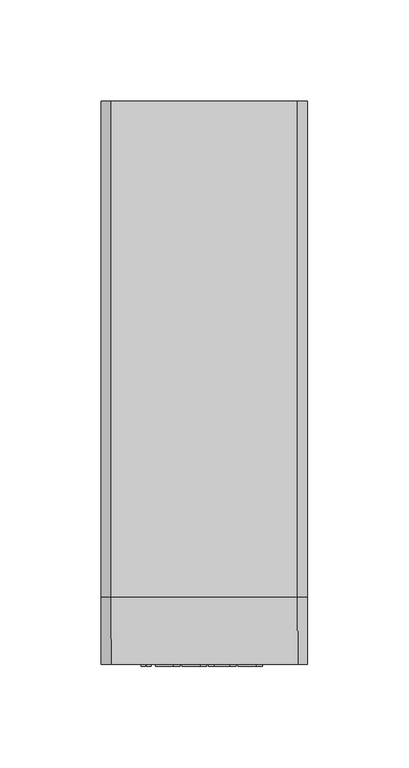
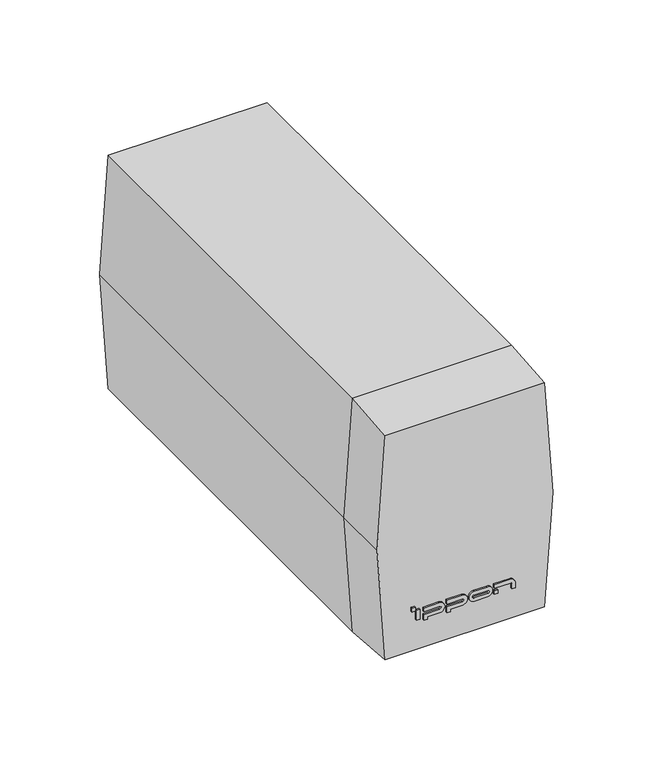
"""IFC4 building model written with IfcOpenShell, lengths in millimetres: proxy geometry, IPPON_ИБП_Innova Back Basic_650_850_1050ВА : Back Basic S Euro 1050 ВА."""

from ifc_helpers import new_model, si_unit, point, frame, frame_2d, origin, place, context, project, spatial, polyline, circle_curve, trimmed, segment, composite_curve, outline, extrude, faceted_brep, source, transform, mapped, element, save


def electrical_equipment_57e4d7b0(model_context):
    return source(origin(), model_context, "Body", "SolidModel", [
        extrude(outline(polyline([(-29.1718133, -1.0), (-31.1718133, -1.0), (-31.1718133, 0.0), (-29.1718133, 0.0), (-29.1718133, -1.0)])), frame((0.0, 0.0, 27.4695835), z_axis=(0.0, 0.0, 1.0), x_axis=(1.0, 0.0, 0.0)), (0.0, 0.0, 1.0), 2.3),
        extrude(outline(polyline([(18.6035474, -1.0), (16.6035474, -1.0), (16.6035474, 0.0), (18.6035474, 0.0), (18.6035474, -1.0)])), frame((0.0, 0.0, 21.4695835), z_axis=(0.0, 0.0, 1.0), x_axis=(1.0, 0.0, 0.0)), (0.0, 0.0, 1.0), 2.2268231),
        extrude(outline(polyline([(-26.438565, -1.0), (-28.4833324, -1.0), (-28.4833324, 0.0), (-26.438565, 0.0), (-26.438565, -1.0)])), frame((0.0, 0.0, 21.4695835), z_axis=(0.0, 0.0, 1.0), x_axis=(1.0, 0.0, 0.0)), (0.0, 0.0, 1.0), 6.0),
        extrude(outline(composite_curve([segment(polyline([(25.2071435, -24.2241109), (25.2071435, -14.9923536)]), True, "CONTINUOUS"), segment(trimmed(circle_curve(frame_2d((24.3506642, -14.9923536)), 0.8564793), [point((25.2071435, -14.9923536))], [point((23.4941849, -14.9923536))], True, "CARTESIAN"), True, "CONTINUOUS"), segment(polyline([(23.4941849, -14.9923536), (23.4941849, -24.2241109), (20.0036803, -24.2241109), (20.0036803, -22.2241109), (21.4695835, -22.2241109), (21.4695835, -15.1486036)]), True, "CONTINUOUS"), segment(trimmed(circle_curve(frame_2d((24.4695835, -15.1486036)), 3.0), [point((21.4695835, -15.1486036))], [point((27.4695835, -15.1486036))], False, "CARTESIAN"), True, "CONTINUOUS"), segment(polyline([(27.4695835, -15.1486036), (27.4695835, -24.2241109), (25.2071435, -24.2241109)]), True, "CONTINUOUS")], self_intersect=False)), frame((0.0, -1.0, 0.0), z_axis=(0.0, 1.0, 0.0), x_axis=(0.0, 0.0, 1.0)), (0.0, 0.0, 1.0), 1.0),
        extrude(outline(composite_curve([segment(polyline([(25.2071435, -11.0171091), (25.2071435, -1.7853518)]), True, "CONTINUOUS"), segment(trimmed(circle_curve(frame_2d((24.3506642, -1.7853518)), 0.8564793), [point((25.2071435, -1.7853518))], [point((23.4941849, -1.7853518))], True, "CARTESIAN"), True, "CONTINUOUS"), segment(polyline([(23.4941849, -1.7853518), (23.4941849, -11.0171091), (20.0036803, -11.0171091), (20.0036803, -9.0171091), (21.4695835, -9.0171091), (21.4695835, -1.9416018)]), True, "CONTINUOUS"), segment(trimmed(circle_curve(frame_2d((24.4695835, -1.9416018)), 3.0), [point((21.4695835, -1.9416018))], [point((27.4695835, -1.9416018))], False, "CARTESIAN"), True, "CONTINUOUS"), segment(polyline([(27.4695835, -1.9416018), (27.4695835, -11.0171091), (25.2071435, -11.0171091)]), True, "CONTINUOUS")], self_intersect=False)), frame((0.0, -1.0, 0.0), z_axis=(0.0, 1.0, 0.0), x_axis=(0.0, 0.0, 1.0)), (0.0, 0.0, 1.0), 1.0),
        extrude(outline(composite_curve([segment(trimmed(circle_curve(frame_2d((24.4695835, 12.558657)), 3.0), [point((21.4695835, 12.558657))], [point((27.4695835, 12.558657))], False, "CARTESIAN"), True, "CONTINUOUS"), segment(polyline([(27.4695835, 12.558657), (27.4695835, 4.958657)]), True, "CONTINUOUS"), segment(trimmed(circle_curve(frame_2d((24.4695835, 4.958657)), 3.0), [point((27.4695835, 4.958657))], [point((21.4695835, 4.958657))], False, "CARTESIAN"), True, "CONTINUOUS"), segment(polyline([(21.4695835, 4.958657), (21.4695835, 12.558657)]), True, "CONTINUOUS")], self_intersect=False), holes=[composite_curve([segment(polyline([(23.4941849, 12.714907), (23.4941849, 4.802407)]), True, "CONTINUOUS"), segment(trimmed(circle_curve(frame_2d((24.3506642, 4.802407)), 0.8564793), [point((23.4941849, 4.802407))], [point((25.2071435, 4.802407))], True, "CARTESIAN"), True, "CONTINUOUS"), segment(polyline([(25.2071435, 4.802407), (25.2071435, 12.714907)]), True, "CONTINUOUS"), segment(trimmed(circle_curve(frame_2d((24.3506642, 12.714907)), 0.8564793), [point((25.2071435, 12.714907))], [point((23.4941849, 12.714907))], True, "CARTESIAN"), True, "CONTINUOUS")], self_intersect=False)]), frame((0.0, -1.0, 0.0), z_axis=(0.0, 1.0, 0.0), x_axis=(0.0, 0.0, 1.0)), (0.0, 0.0, 1.0), 1.0),
        extrude(outline(composite_curve([segment(polyline([(25.2071435, 16.6035474), (25.2071435, 25.8353046)]), True, "CONTINUOUS"), segment(trimmed(circle_curve(frame_2d((24.3506642, 25.8353046)), 0.8564793), [point((25.2071435, 25.8353046))], [point((24.3506642, 26.6917839))], True, "CARTESIAN"), True, "CONTINUOUS"), segment(polyline([(24.3506642, 26.6917839), (21.4695835, 26.6917839), (21.4695835, 28.6317921), (25.0, 28.6317921)]), True, "CONTINUOUS"), segment(trimmed(circle_curve(frame_2d((24.4695835, 25.6790546)), 3.0), [point((25.0, 28.6317921))], [point((27.4695835, 25.6790546))], False, "CARTESIAN"), True, "CONTINUOUS"), segment(polyline([(27.4695835, 25.6790546), (27.4695835, 16.6035474), (25.2071435, 16.6035474)]), True, "CONTINUOUS")], self_intersect=False)), frame((0.0, -1.0, 0.0), z_axis=(0.0, 1.0, 0.0), x_axis=(0.0, 0.0, 1.0)), (0.0, 0.0, 1.0), 1.0),
        faceted_brep([(46.2097902, 0.0, 140.0), (-46.2097902, 0.0, 140.0), (-51.0, 0.0, 71.5), (-46.2097902, 0.0, 3.0), (46.2097902, 0.0, 3.0), (51.0, 0.0, 71.5), (-46.0, 33.0, 143.0), (46.0, 33.0, 143.0), (51.0, 33.0, 71.5), (46.0, 33.0, 0.0), (-46.0, 33.0, 0.0), (-51.0, 33.0, 71.5)], [[[0, 1, 2, 3, 4, 5]], [[6, 7, 8, 9, 10, 11]], [[7, 6, 1, 0]], [[10, 9, 4, 3]], [[5, 8, 7, 0]], [[8, 5, 4, 9]], [[11, 2, 1, 6]], [[2, 11, 10, 3]]]),
        extrude(outline(polyline([(143.0, 46.0), (143.0, -46.0), (71.5, -51.0), (0.0, -46.0), (0.0, 46.0), (71.5, 51.0), (143.0, 46.0)])), frame((0.0, 33.0, 0.0), z_axis=(0.0, 1.0, 0.0), x_axis=(0.0, 0.0, 1.0)), (0.0, 0.0, 1.0), 245.0),
    ])


if __name__ == "__main__":
    model = new_model("IFC4")
    model_context = context("Model", 3, world=origin())
    ifc_project = project(units=[si_unit("LENGTHUNIT", "METRE", prefix="MILLI")], contexts=[model_context])
    site = spatial("IfcSite", under=ifc_project)
    building = spatial("IfcBuilding", under=site)
    placement = place(None, origin())
    electrical_equipment_shape = electrical_equipment_57e4d7b0(model_context)
    element("IfcBuildingElementProxy", 1, Name="IPPON_ИБП_Innova Back Basic_650_850_1050ВА : Back Basic S Euro 1050 ВА", ObjectType="IPPON_ИБП_Innova Back Basic_650_850_1050ВА : Back Basic S Euro 1050 ВА", at=placement, inside=building, context=model_context, shape_type="MappedRepresentation", body=[
        mapped(electrical_equipment_shape, transform((0.0, 0.0, 0.0), x_axis=(1.0, 0.0, 0.0), y_axis=(0.0, 1.0, 0.0), z_axis=(0.0, 0.0, 1.0))),
    ])
    save(model, "model.ifc")
